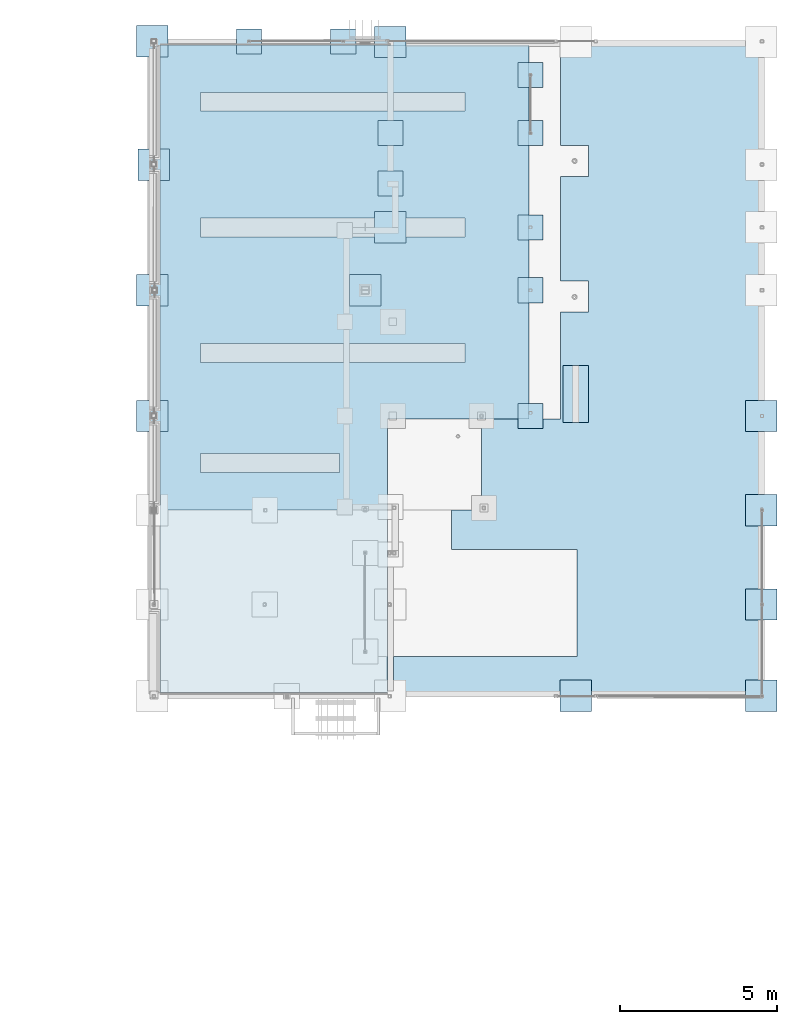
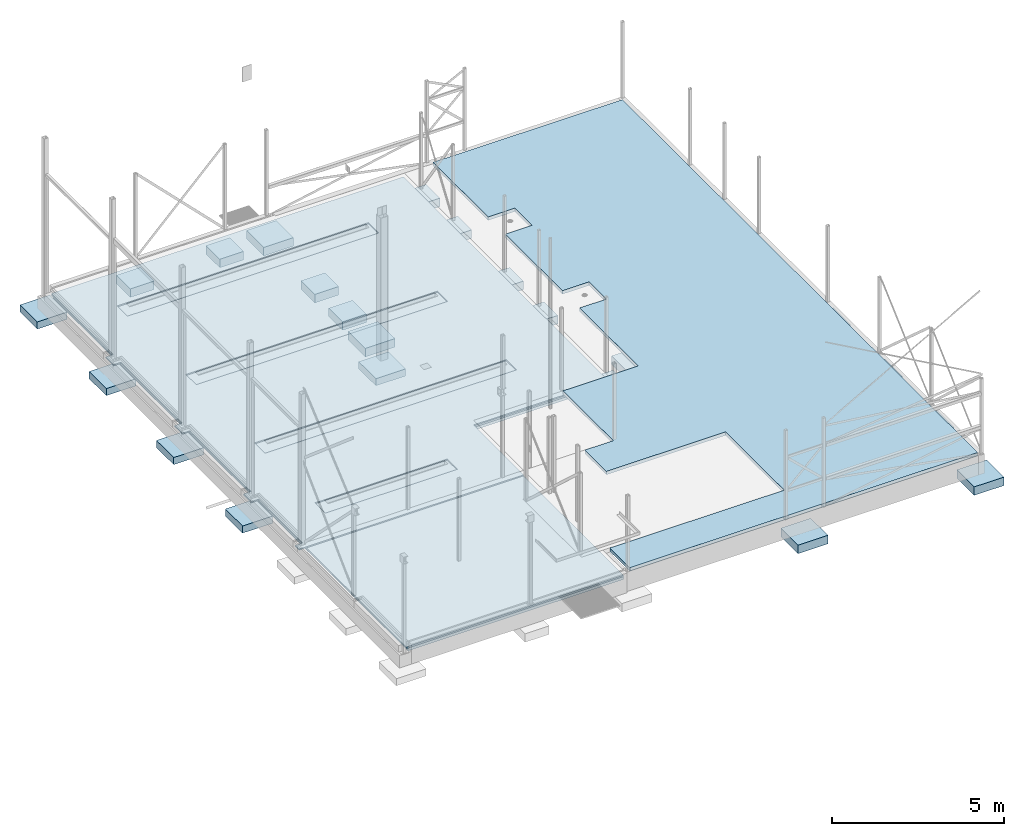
# One storey, part 9 of 18: 26 slabs.
"""IFC2X3 building model written with IfcOpenShell, lengths in millimetres."""

from ifc_helpers import new_model, entity, si_unit, converted_unit, derived_unit, direction, frame, frame_2d, origin, origin_2d_with_axis, place, context, subcontext, project, spatial, polyline, rectangle, outline, extrude, material, layer, layer_set, layer_usage, element, save


model = new_model("IFC2X3")

# Units and contexts
model_context = context("Model", 3, precision=0.01, world=origin(), true_north=direction((6.12303176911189e-17, 1.0)))
body_context = subcontext(model_context, "Body", "Model", "MODEL_VIEW")
ifc_project = project(units=[si_unit("LENGTHUNIT", "METRE", prefix="MILLI"), si_unit("AREAUNIT", "SQUARE_METRE"), si_unit("VOLUMEUNIT", "CUBIC_METRE"), converted_unit("PLANEANGLEUNIT", "DEGREE", entity("IfcRatioMeasure", 0.0174532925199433), si_unit("PLANEANGLEUNIT", "RADIAN"), dimensions=[0, 0, 0, 0, 0, 0, 0]), si_unit("MASSUNIT", "GRAM", prefix="KILO"), derived_unit("MASSDENSITYUNIT", [(si_unit("MASSUNIT", "GRAM", prefix="KILO"), 1), (si_unit("LENGTHUNIT", "METRE"), -3)]), si_unit("TIMEUNIT", "SECOND"), si_unit("FREQUENCYUNIT", "HERTZ"), si_unit("THERMODYNAMICTEMPERATUREUNIT", "DEGREE_CELSIUS"), derived_unit("THERMALTRANSMITTANCEUNIT", [(si_unit("MASSUNIT", "GRAM", prefix="KILO"), 1), (si_unit("THERMODYNAMICTEMPERATUREUNIT", "KELVIN"), -1), (si_unit("TIMEUNIT", "SECOND"), -3)]), derived_unit("VOLUMETRICFLOWRATEUNIT", [(si_unit("LENGTHUNIT", "METRE"), 3), (si_unit("TIMEUNIT", "SECOND"), -1)]), si_unit("ELECTRICCURRENTUNIT", "AMPERE"), si_unit("ELECTRICVOLTAGEUNIT", "VOLT"), si_unit("POWERUNIT", "WATT"), si_unit("FORCEUNIT", "NEWTON", prefix="KILO"), si_unit("ILLUMINANCEUNIT", "LUX"), si_unit("LUMINOUSFLUXUNIT", "LUMEN"), si_unit("LUMINOUSINTENSITYUNIT", "CANDELA"), derived_unit("USERDEFINED", [(si_unit("MASSUNIT", "GRAM", prefix="KILO"), -1), (si_unit("LENGTHUNIT", "METRE"), -2), (si_unit("TIMEUNIT", "SECOND"), 3), (si_unit("LUMINOUSFLUXUNIT", "LUMEN"), 1)]), derived_unit("LINEARVELOCITYUNIT", [(si_unit("LENGTHUNIT", "METRE"), 1), (si_unit("TIMEUNIT", "SECOND"), -1)]), si_unit("PRESSUREUNIT", "PASCAL"), derived_unit("USERDEFINED", [(si_unit("LENGTHUNIT", "METRE"), -2), (si_unit("MASSUNIT", "GRAM", prefix="KILO"), 1), (si_unit("TIMEUNIT", "SECOND"), -2)])], contexts=[model_context])

# Site, building, storey
site_placement = place(None, frame((0.0, 0.0, 101000.0)))
site = spatial("IfcSite", under=ifc_project, at=site_placement, Name="Default", CompositionType="ELEMENT")
building_placement = place(site_placement, origin())
building = spatial("IfcBuilding", under=site, at=building_placement, CompositionType="ELEMENT")
storey_placement = place(building_placement, origin())
storey = spatial("IfcBuildingStorey", under=building, at=storey_placement, Name="01", CompositionType="ELEMENT", Elevation=8.9295595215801e-10)

# Slabs
ifc_material_1 = material(Name="Betong Plasstøpt - B35")
slab_1_placement = place(storey_placement, origin())
element("IfcSlab", 1, at=slab_1_placement, inside=storey, material=ifc_material_1, Name="Punktfundament:Betong 1000x1000x300mm", ObjectType="Punktfundament:Betong 1000x1000x300mm", PredefinedType="FLOOR", context=body_context, shape_type="SweptSolid", body=[
    extrude(rectangle(XDim=999.999999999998, YDim=999.999999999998, at=origin_2d_with_axis()), frame((23086.2644969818, 32417.9507529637, -1000.0), z_axis=(0.0, 0.0, 1.0), x_axis=(-1.0, 0.0, 0.0)), (0.0, 0.0, 1.0), 300.0),
])
slab_2_placement = place(storey_placement, origin())
element("IfcSlab", 2, at=slab_2_placement, inside=storey, material=ifc_material_1, Name="Punktfundament:Betong 1000x1000x300mm", ObjectType="Punktfundament:Betong 1000x1000x300mm", PredefinedType="FLOOR", context=body_context, shape_type="SweptSolid", body=[
    extrude(rectangle(XDim=999.999999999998, YDim=999.999999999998, at=origin_2d_with_axis()), frame((23086.2644969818, 29417.9507529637, -1000.0), z_axis=(0.0, 0.0, 1.0), x_axis=(-1.0, 0.0, 0.0)), (0.0, 0.0, 1.0), 300.0),
])
slab_3_placement = place(storey_placement, origin())
element("IfcSlab", 3, at=slab_3_placement, inside=storey, material=ifc_material_1, Name="Punktfundament:Betong 1000x1000x300mm", ObjectType="Punktfundament:Betong 1000x1000x300mm", PredefinedType="FLOOR", context=body_context, shape_type="SweptSolid", body=[
    extrude(rectangle(XDim=999.999999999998, YDim=999.999999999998, at=origin_2d_with_axis()), frame((23086.2644969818, 26417.9507529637, -1000.0), z_axis=(0.0, 0.0, 1.0), x_axis=(-1.0, 0.0, 0.0)), (0.0, 0.0, 1.0), 300.0),
])
slab_4_placement = place(storey_placement, origin())
element("IfcSlab", 4, at=slab_4_placement, inside=storey, material=ifc_material_1, Name="Punktfundament:Betong 1000x1000x300mm", ObjectType="Punktfundament:Betong 1000x1000x300mm", PredefinedType="FLOOR", context=body_context, shape_type="SweptSolid", body=[
    extrude(rectangle(XDim=999.999999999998, YDim=999.999999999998, at=origin_2d_with_axis()), frame((23086.2644969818, 23517.9507529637, -1000.0), z_axis=(0.0, 0.0, 1.0), x_axis=(-1.0, 0.0, 0.0)), (0.0, 0.0, 1.0), 300.0),
])
slab_5_placement = place(storey_placement, origin())
element("IfcSlab", 5, at=slab_5_placement, inside=storey, material=ifc_material_1, Name="Punktfundament:Betong 1000x1000x300mm", ObjectType="Punktfundament:Betong 1000x1000x300mm", PredefinedType="FLOOR", context=body_context, shape_type="SweptSolid", body=[
    extrude(rectangle(XDim=1000.0, YDim=999.999999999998, at=frame_2d((-1.08002495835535e-12, 0.0), x_axis=(1.0, 0.0))), frame((17186.2644969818, 23517.9507529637, -1000.0), z_axis=(0.0, 0.0, 1.0), x_axis=(-1.0, 0.0, 0.0)), (0.0, 0.0, 1.0), 300.0),
])
slab_6_placement = place(storey_placement, origin())
element("IfcSlab", 6, at=slab_6_placement, inside=storey, material=ifc_material_1, Name="Punktfundament:Betong 1000x1000x300mm", ObjectType="Punktfundament:Betong 1000x1000x300mm", PredefinedType="FLOOR", context=body_context, shape_type="SweptSolid", body=[
    extrude(rectangle(XDim=1000.0, YDim=999.999999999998, at=frame_2d((-1.08002495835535e-12, 0.0), x_axis=(1.0, 0.0))), frame((11286.2644969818, 44317.9507529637, -1000.0), z_axis=(0.0, 0.0, 1.0), x_axis=(-1.0, 0.0, 0.0)), (0.0, 0.0, 1.0), 300.0),
])
slab_7_placement = place(storey_placement, origin())
element("IfcSlab", 7, at=slab_7_placement, inside=storey, material=ifc_material_1, Name="Punktfundament:Betong 1000x1000x300mm", ObjectType="Punktfundament:Betong 1000x1000x300mm", PredefinedType="FLOOR", context=body_context, shape_type="SweptSolid", body=[
    extrude(rectangle(XDim=1000.0, YDim=999.999999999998, at=frame_2d((-1.08002495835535e-12, 0.0), x_axis=(1.0, 0.0))), frame((11286.2644969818, 38417.9507529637, -1000.0), z_axis=(0.0, 0.0, 1.0), x_axis=(-1.0, 0.0, 0.0)), (0.0, 0.0, 1.0), 300.0),
])
slab_8_placement = place(storey_placement, origin())
element("IfcSlab", 8, at=slab_8_placement, inside=storey, material=ifc_material_1, Name="Punktfundament:800x800x300", ObjectType="Punktfundament:800x800x300", PredefinedType="FLOOR", context=body_context, shape_type="SweptSolid", body=[
    extrude(rectangle(XDim=800.0, YDim=800.0, at=frame_2d((0.0, -4.34852154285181e-12), x_axis=(1.0, 0.0))), frame((11286.2644969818, 39815.8308147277, -1000.0), z_axis=(0.0, 0.0, 1.0), x_axis=(-1.0, 0.0, 0.0)), (0.0, 0.0, 1.0), 300.0),
])
slab_9_placement = place(storey_placement, origin())
element("IfcSlab", 9, at=slab_9_placement, inside=storey, material=ifc_material_1, Name="Punktfundament:1800x800x300", ObjectType="Punktfundament:1800x800x300", PredefinedType="FLOOR", context=body_context, shape_type="SweptSolid", body=[
    extrude(rectangle(XDim=1800.0, YDim=800.0, at=frame_2d((2.1600499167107e-12, 0.0), x_axis=(1.0, 0.0))), frame((17186.2644969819, 33117.9507529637, -1000.0), z_axis=(0.0, 0.0, 1.0), x_axis=(0.0, -1.0, 0.0)), (0.0, 0.0, 1.0), 300.0),
])
ifc_material_2 = material(Name="Betong Plasstøpt - B30")
ifc_layer_1 = layer(ifc_material_2, 70.0)
ifc_material_3 = material(Name="EPS")
ifc_layer_2 = layer(ifc_material_3, 50.0)
ifc_layer_set_1 = layer_set([ifc_layer_1, ifc_layer_2], Name="Floor:BETONG 70+50")
ifc_layer_usage_1 = layer_usage(ifc_layer_set_1, "AXIS3", "POSITIVE", 0.0)
slab_10_placement = place(storey_placement, origin())
element("IfcSlab", 10, at=slab_10_placement, inside=storey, material=ifc_layer_usage_1, Name="Floor:BETONG 70+50", ObjectType="Floor:BETONG 70+50", PredefinedType="FLOOR", context=body_context, shape_type="SweptSolid", body=[
    extrude(outline(polyline([(-9994.41930894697, -5052.26402575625), (-8834.41930894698, -5052.26402575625), (-8834.419308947, 792.447668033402), (-5434.41930894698, 792.4476680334), (-5434.41930894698, -3202.248540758), (-4184.41930894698, -3202.248540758), (-4184.41930894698, -2252.26402575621), (-1273.2229192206, -2252.26402575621), (-1273.22291922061, 262.790353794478), (2117.81496314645, 262.790353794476), (2117.81496314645, 1159.11094430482), (3117.81496314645, 1159.11094430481), (3117.81496314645, 262.790353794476), (6429.84476883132, 262.790353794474), (6429.84476883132, 1159.11094430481), (7429.84476883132, 1159.11094430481), (7429.84476883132, 262.790353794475), (10625.580691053, 262.790353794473), (10625.580691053, 6607.73597424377), (-9994.41930894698, 6607.73597424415), (-9994.41930894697, -5052.26402575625)])), frame((16438.5285227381, 33602.3700619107, 0.0), z_axis=(0.0, 0.0, -1.0), x_axis=(0.0, 1.0, 0.0)), (0.0, 0.0, 1.0), 120.0),
])
slab_11_placement = place(storey_placement, origin())
element("IfcSlab", 11, at=slab_11_placement, inside=storey, material=ifc_material_1, Name="Punktfundament:1000x1000x250", ObjectType="Punktfundament:1000x1000x250", PredefinedType="FLOOR", context=body_context, shape_type="SweptSolid", body=[
    extrude(rectangle(XDim=1000.0, YDim=999.999999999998, at=origin_2d_with_axis()), frame((3711.26449698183, 32417.9507529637, -950.0), z_axis=(0.0, 0.0, 1.0), x_axis=(-1.0, 0.0, 0.0)), (0.0, 0.0, 1.0), 250.0),
])
slab_12_placement = place(storey_placement, origin())
element("IfcSlab", 12, at=slab_12_placement, inside=storey, material=ifc_material_1, Name="Punktfundament:1000x1000x250", ObjectType="Punktfundament:1000x1000x250", PredefinedType="FLOOR", context=body_context, shape_type="SweptSolid", body=[
    extrude(rectangle(XDim=1000.0, YDim=999.999999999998, at=origin_2d_with_axis()), frame((3711.26449698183, 36417.9507529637, -950.0), z_axis=(0.0, 0.0, 1.0), x_axis=(-1.0, 0.0, 0.0)), (0.0, 0.0, 1.0), 250.0),
])
slab_13_placement = place(storey_placement, origin())
element("IfcSlab", 13, at=slab_13_placement, inside=storey, material=ifc_material_1, Name="Punktfundament:1000x1000x250", ObjectType="Punktfundament:1000x1000x250", PredefinedType="FLOOR", context=body_context, shape_type="SweptSolid", body=[
    extrude(rectangle(XDim=1000.0, YDim=999.999999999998, at=origin_2d_with_axis()), frame((3761.26449698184, 40417.9507529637, -950.0), z_axis=(0.0, 0.0, 1.0), x_axis=(-1.0, 0.0, 0.0)), (0.0, 0.0, 1.0), 250.0),
])
slab_14_placement = place(storey_placement, origin())
element("IfcSlab", 14, at=slab_14_placement, inside=storey, material=ifc_material_1, Name="Punktfundament:1000x1000x250", ObjectType="Punktfundament:1000x1000x250", PredefinedType="FLOOR", context=body_context, shape_type="SweptSolid", body=[
    extrude(rectangle(XDim=1000.0, YDim=999.999999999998, at=origin_2d_with_axis()), frame((3711.26449698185, 44337.9507529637, -950.0), z_axis=(0.0, 0.0, 1.0), x_axis=(-1.0, 0.0, 0.0)), (0.0, 0.0, 1.0), 250.0),
])
slab_15_placement = place(storey_placement, origin())
element("IfcSlab", 15, at=slab_15_placement, inside=storey, material=ifc_material_1, Name="Punktfundament:1000x1000x250", ObjectType="Punktfundament:1000x1000x250", PredefinedType="FLOOR", context=body_context, shape_type="SweptSolid", body=[
    extrude(rectangle(XDim=1000.0, YDim=999.999999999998, at=frame_2d((1.08002495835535e-12, 0.0), x_axis=(1.0, 0.0))), frame((10486.2644969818, 36417.9507529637, -530.0), z_axis=(0.0, 0.0, 1.0), x_axis=(-1.0, 0.0, 0.0)), (0.0, 0.0, 1.0), 250.0),
])
slab_16_placement = place(storey_placement, origin())
element("IfcSlab", 16, at=slab_16_placement, inside=storey, material=ifc_material_1, Name="Punktfundament:800x800x300", ObjectType="Punktfundament:800x800x300", PredefinedType="FLOOR", context=body_context, shape_type="SweptSolid", body=[
    extrude(rectangle(XDim=800.0, YDim=800.0, at=origin_2d_with_axis()), frame((15742.4253486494, 36417.9507529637, -550.0), z_axis=(0.0, 0.0, 1.0), x_axis=(-1.0, 0.0, 0.0)), (0.0, 0.0, 1.0), 300.0),
])
slab_17_placement = place(storey_placement, origin())
element("IfcSlab", 17, at=slab_17_placement, inside=storey, material=ifc_material_1, Name="Punktfundament:800x800x300", ObjectType="Punktfundament:800x800x300", PredefinedType="FLOOR", context=body_context, shape_type="SweptSolid", body=[
    extrude(rectangle(XDim=800.0, YDim=800.0, at=origin_2d_with_axis()), frame((15742.4253486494, 38417.9507529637, -550.0), z_axis=(0.0, 0.0, 1.0), x_axis=(-1.0, 0.0, 0.0)), (0.0, 0.0, 1.0), 300.0),
])
slab_18_placement = place(storey_placement, origin())
element("IfcSlab", 18, at=slab_18_placement, inside=storey, material=ifc_material_1, Name="Punktfundament:800x800x300", ObjectType="Punktfundament:800x800x300", PredefinedType="FLOOR", context=body_context, shape_type="SweptSolid", body=[
    extrude(rectangle(XDim=800.0, YDim=800.0, at=frame_2d((0.0, -4.34852154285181e-12), x_axis=(1.0, 0.0))), frame((15742.4253486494, 41417.9507529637, -550.0), z_axis=(0.0, 0.0, 1.0), x_axis=(-1.0, 0.0, 0.0)), (0.0, 0.0, 1.0), 300.0),
])
slab_19_placement = place(storey_placement, origin())
element("IfcSlab", 19, at=slab_19_placement, inside=storey, material=ifc_material_1, Name="Punktfundament:800x800x300", ObjectType="Punktfundament:800x800x300", PredefinedType="FLOOR", context=body_context, shape_type="SweptSolid", body=[
    extrude(rectangle(XDim=800.0, YDim=800.0, at=frame_2d((0.0, -4.34852154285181e-12), x_axis=(1.0, 0.0))), frame((15742.4253486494, 43267.9507529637, -550.0), z_axis=(0.0, 0.0, 1.0), x_axis=(-1.0, 0.0, 0.0)), (0.0, 0.0, 1.0), 300.0),
])
slab_20_placement = place(storey_placement, origin())
element("IfcSlab", 20, at=slab_20_placement, inside=storey, material=ifc_material_1, Name="Punktfundament:800x800x300", ObjectType="Punktfundament:800x800x300", PredefinedType="FLOOR", context=body_context, shape_type="SweptSolid", body=[
    extrude(rectangle(XDim=800.0, YDim=800.0, at=origin_2d_with_axis()), frame((15742.4253486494, 32417.9507529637, -550.0), z_axis=(0.0, 0.0, 1.0), x_axis=(-1.0, 0.0, 0.0)), (0.0, 0.0, 1.0), 300.0),
])
slab_21_placement = place(storey_placement, origin())
element("IfcSlab", 21, at=slab_21_placement, inside=storey, material=ifc_material_1, Name="Punktfundament:800x800x300", ObjectType="Punktfundament:800x800x300", PredefinedType="FLOOR", context=body_context, shape_type="SweptSolid", body=[
    extrude(rectangle(XDim=800.0, YDim=800.0, at=frame_2d((0.0, -4.34852154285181e-12), x_axis=(1.0, 0.0))), frame((11286.2644969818, 41417.9507529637, -1000.0), z_axis=(0.0, 0.0, 1.0), x_axis=(-1.0, 0.0, 0.0)), (0.0, 0.0, 1.0), 300.0),
])
slab_22_placement = place(storey_placement, origin())
element("IfcSlab", 22, at=slab_22_placement, inside=storey, material=ifc_material_1, Name="Punktfundament:800x800x300", ObjectType="Punktfundament:800x800x300", PredefinedType="FLOOR", context=body_context, shape_type="SweptSolid", body=[
    extrude(rectangle(XDim=800.0, YDim=800.0, at=frame_2d((0.0, 4.34852154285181e-12), x_axis=(1.0, 0.0))), frame((9786.26449698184, 44337.9507529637, -1000.0), z_axis=(0.0, 0.0, 1.0), x_axis=(-1.0, 0.0, 0.0)), (0.0, 0.0, 1.0), 300.0),
])
slab_23_placement = place(storey_placement, origin())
element("IfcSlab", 23, at=slab_23_placement, inside=storey, material=ifc_material_1, Name="Punktfundament:800x800x300", ObjectType="Punktfundament:800x800x300", PredefinedType="FLOOR", context=body_context, shape_type="SweptSolid", body=[
    extrude(rectangle(XDim=800.0, YDim=800.0, at=frame_2d((0.0, -4.34852154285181e-12), x_axis=(1.0, 0.0))), frame((6786.26449698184, 44337.9507529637, -1000.0), z_axis=(0.0, 0.0, 1.0), x_axis=(-1.0, 0.0, 0.0)), (0.0, 0.0, 1.0), 300.0),
])
ifc_layer_3 = layer(ifc_material_3, 50.0)
ifc_layer_set_2 = layer_set([ifc_layer_3], Name="Floor:EPS 50")
ifc_layer_usage_2 = layer_usage(ifc_layer_set_2, "AXIS3", "POSITIVE", 0.0)
slab_24_placement = place(storey_placement, origin())
element("IfcSlab", 24, at=slab_24_placement, inside=storey, material=ifc_layer_usage_2, Name="Floor:EPS 50", ObjectType="Floor:EPS 50", PredefinedType="FLOOR", context=body_context, shape_type="SweptSolid", body=[
    extrude(outline(polyline([(-8806.38036102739, 1806.39257392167), (-8806.38036102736, -9983.66180562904), (3082.42324924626, -9983.66180562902), (3082.42324924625, -5468.6074260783), (5993.61963897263, -5468.60742607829), (5993.61963897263, 2056.67473400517), (5768.61963897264, 2056.67473400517), (5768.61963897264, 1806.39257392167), (3218.61963897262, 1806.39257392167), (3218.61963897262, 2056.67473400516), (2768.61963897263, 2056.67473400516), (2768.61963897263, 1806.39257392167), (-781.380361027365, 1806.39257392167), (-781.380361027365, 2056.67473400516), (-1231.38036102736, 2056.67473400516), (-1231.38036102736, 1806.39257392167), (-4781.38036102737, 1806.39257392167), (-4781.38036102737, 2056.67473400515), (-5231.38036102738, 2056.67473400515), (-5231.38036102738, 1806.39257392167), (-8806.38036102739, 1806.39257392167)]), holes=[polyline([(-2706.38036102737, 481.338194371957), (-2706.38036102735, -7943.66180562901), (-3306.38036102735, -7943.66180562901), (-3306.38036102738, 481.338194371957), (-2706.38036102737, 481.338194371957)]), polyline([(1293.61963897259, 481.338194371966), (1293.61963897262, -7943.661805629), (693.619638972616, -7943.661805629), (693.61963897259, 481.338194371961), (1293.61963897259, 481.338194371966)]), polyline([(4793.61963897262, 481.338194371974), (4793.61963897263, -3943.66180562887), (4193.61963897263, -3943.66180562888), (4193.61963897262, 481.33819437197), (4793.61963897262, 481.338194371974)]), polyline([(-6706.38036102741, 481.338194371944), (-6706.38036102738, -7943.66180562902), (-7306.38036102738, -7943.66180562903), (-7306.38036102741, 481.338194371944), (-6706.38036102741, 481.338194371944)])]), frame((5717.65707090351, 35411.5703919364, -200.0), z_axis=(0.0, 0.0, -1.0), x_axis=(0.0, -1.0, 0.0)), (0.0, 0.0, -1.0), 40.0000000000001),
])
ifc_layer_usage_3 = layer_usage(ifc_layer_set_2, "AXIS3", "POSITIVE", 0.0)
slab_25_placement = place(storey_placement, frame((3911.26449698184, 23617.9507529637, -250.0)))
element("IfcSlab", 25, at=slab_25_placement, inside=storey, material=ifc_layer_usage_3, Name="Floor:EPS 50", ObjectType="Floor:EPS 50", PredefinedType="FLOOR", context=body_context, shape_type="SweptSolid", body=[
    extrude(outline(polyline([(5895.02718977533, 10300.0), (-5895.02718977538, 10300.0), (-5895.02718977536, -1588.8036102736), (-1379.97281022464, -1588.80361027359), (-1379.97281022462, -10300.0), (5895.02718977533, -10300.0), (5895.02718977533, 10300.0)])), frame((5895.02718977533, 10300.0, 50.0), z_axis=(0.0, 0.0, -1.0), x_axis=(-1.0, 0.0, 0.0)), (0.0, 0.0, 1.0), 50.0),
])
ifc_layer_4 = layer(ifc_material_3, 100.0)
ifc_layer_set_3 = layer_set([ifc_layer_4], Name="Floor:EPS 100")
ifc_layer_usage_4 = layer_usage(ifc_layer_set_3, "AXIS3", "POSITIVE", 0.0)
slab_26_placement = place(storey_placement, frame((3961.26449698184, 23617.9507529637, -350.0)))
element("IfcSlab", 26, at=slab_26_placement, inside=storey, material=ifc_layer_usage_4, Name="Floor:EPS 100", ObjectType="Floor:EPS 100", PredefinedType="FLOOR", context=body_context, shape_type="SweptSolid", body=[
    extrude(outline(polyline([(5870.02718977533, 10300.0), (-5870.02718977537, 10300.0), (-5870.02718977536, -1588.8036102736), (-1354.97281022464, -1588.80361027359), (-1354.97281022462, -10300.0), (5870.02718977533, -10300.0), (5870.02718977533, 10300.0)])), frame((5870.02718977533, 10300.0, 100.0), z_axis=(0.0, 0.0, -1.0), x_axis=(-1.0, 0.0, 0.0)), (0.0, 0.0, 1.0), 100.0),
])

save(model, "model.ifc")
